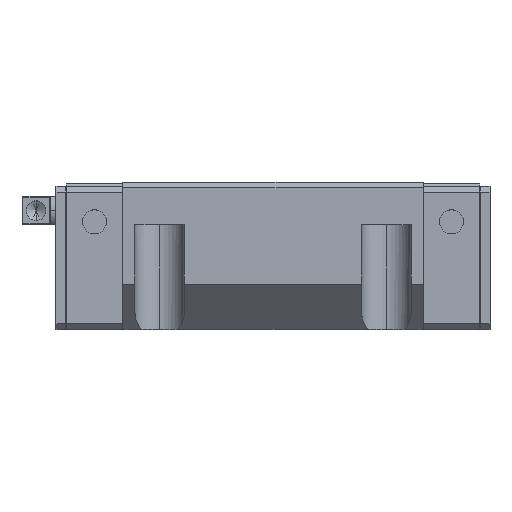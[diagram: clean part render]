
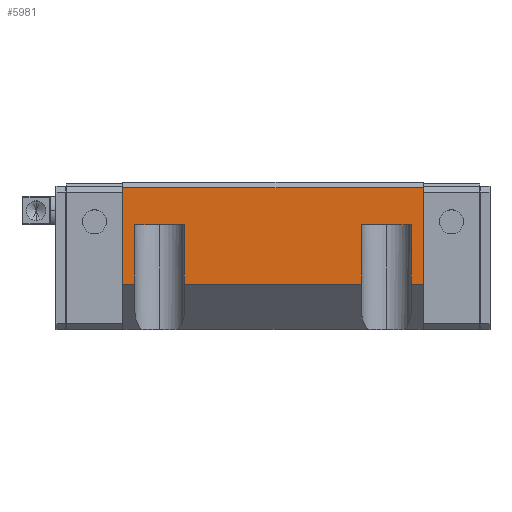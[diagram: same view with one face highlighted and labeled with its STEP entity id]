
A CAD part, top view. The second image highlights one B-rep face of the part: STEP entity #5981.
In plain terms, the highlighted planar face has unit normal (0, 0, 1).
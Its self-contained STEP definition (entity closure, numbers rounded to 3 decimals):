
#60 = EDGE_CURVE ( 'NONE', #6344, #935, #9092, .T. ) ;
#377 = VECTOR ( 'NONE', #4587, 1000. ) ;
#396 = DIRECTION ( 'NONE',  ( 0., -1., 0. ) ) ;
#417 = EDGE_CURVE ( 'NONE', #8476, #6859, #4392, .T. ) ;
#437 = DIRECTION ( 'NONE',  ( 0., 1., 0. ) ) ;
#481 = EDGE_CURVE ( 'NONE', #6074, #8610, #5539, .T. ) ;
#519 = CARTESIAN_POINT ( 'NONE',  ( -53., 20., 60. ) ) ;
#643 = CARTESIAN_POINT ( 'NONE',  ( 48.75, -14., 60. ) ) ;
#852 = ORIENTED_EDGE ( 'NONE', *, *, #481, .T. ) ;
#935 = VERTEX_POINT ( 'NONE', #9121 ) ;
#937 = EDGE_LOOP ( 'NONE', ( #5628, #4161, #5760, #6761, #8206, #2794, #2731, #852, #6980, #3498, #9285, #2928 ) ) ;
#1030 = EDGE_CURVE ( 'NONE', #4673, #8476, #4134, .T. ) ;
#1035 = EDGE_CURVE ( 'NONE', #9078, #1548, #7962, .T. ) ;
#1167 = CARTESIAN_POINT ( 'NONE',  ( 48.75, -14., 60. ) ) ;
#1396 = LINE ( 'NONE', #5685, #7808 ) ;
#1405 = VECTOR ( 'NONE', #6653, 1000. ) ;
#1546 = CARTESIAN_POINT ( 'NONE',  ( 53., 20., 60. ) ) ;
#1548 = VERTEX_POINT ( 'NONE', #1546 ) ;
#1604 = VECTOR ( 'NONE', #7113, 1000. ) ;
#1636 = FACE_OUTER_BOUND ( 'NONE', #937, .T. ) ;
#1793 = EDGE_CURVE ( 'NONE', #4673, #8386, #1396, .T. ) ;
#1824 = CARTESIAN_POINT ( 'NONE',  ( -48.75, -14., 60. ) ) ;
#1924 = LINE ( 'NONE', #9043, #377 ) ;
#2179 = VECTOR ( 'NONE', #396, 1000. ) ;
#2222 = DIRECTION ( 'NONE',  ( 0., 0., 1. ) ) ;
#2664 = LINE ( 'NONE', #4116, #1604 ) ;
#2668 = CARTESIAN_POINT ( 'NONE',  ( -53., -14., 60. ) ) ;
#2731 = ORIENTED_EDGE ( 'NONE', *, *, #9303, .T. ) ;
#2794 = ORIENTED_EDGE ( 'NONE', *, *, #3399, .T. ) ;
#2844 = VECTOR ( 'NONE', #7082, 1000. ) ;
#2886 = CARTESIAN_POINT ( 'NONE',  ( -48.75, 7., 60. ) ) ;
#2928 = ORIENTED_EDGE ( 'NONE', *, *, #417, .T. ) ;
#2976 = CARTESIAN_POINT ( 'NONE',  ( 48.75, -14., 60. ) ) ;
#3053 = CARTESIAN_POINT ( 'NONE',  ( -53., 20., 60. ) ) ;
#3156 = EDGE_CURVE ( 'NONE', #8386, #8610, #2664, .T. ) ;
#3239 = CARTESIAN_POINT ( 'NONE',  ( 53., 20., 60. ) ) ;
#3399 = EDGE_CURVE ( 'NONE', #9078, #8037, #1924, .T. ) ;
#3498 = ORIENTED_EDGE ( 'NONE', *, *, #1793, .F. ) ;
#3569 = CARTESIAN_POINT ( 'NONE',  ( 31.25, -14., 60. ) ) ;
#3586 = DIRECTION ( 'NONE',  ( 1., 0., 0. ) ) ;
#3664 = CARTESIAN_POINT ( 'NONE',  ( 48.75, 7., 60. ) ) ;
#3852 = CARTESIAN_POINT ( 'NONE',  ( -53., 20., 60. ) ) ;
#4116 = CARTESIAN_POINT ( 'NONE',  ( -31.25, 7., 60. ) ) ;
#4134 = LINE ( 'NONE', #6401, #7305 ) ;
#4161 = ORIENTED_EDGE ( 'NONE', *, *, #60, .F. ) ;
#4355 = DIRECTION ( 'NONE',  ( 1., 0., 0. ) ) ;
#4392 = LINE ( 'NONE', #8110, #9015 ) ;
#4470 = VECTOR ( 'NONE', #3586, 1000. ) ;
#4587 = DIRECTION ( 'NONE',  ( 0., -1., 0. ) ) ;
#4673 = VERTEX_POINT ( 'NONE', #9427 ) ;
#4958 = CARTESIAN_POINT ( 'NONE',  ( -31.25, 7., 60. ) ) ;
#4973 = LINE ( 'NONE', #643, #4470 ) ;
#5314 = EDGE_CURVE ( 'NONE', #1548, #5526, #8566, .T. ) ;
#5398 = EDGE_CURVE ( 'NONE', #6344, #5526, #4973, .T. ) ;
#5526 = VERTEX_POINT ( 'NONE', #8263 ) ;
#5539 = LINE ( 'NONE', #9230, #8064 ) ;
#5575 = DIRECTION ( 'NONE',  ( 1., 0., 0. ) ) ;
#5608 = LINE ( 'NONE', #8569, #7948 ) ;
#5628 = ORIENTED_EDGE ( 'NONE', *, *, #5991, .F. ) ;
#5685 = CARTESIAN_POINT ( 'NONE',  ( -31.25, -14., 60. ) ) ;
#5760 = ORIENTED_EDGE ( 'NONE', *, *, #5398, .T. ) ;
#5981 = ADVANCED_FACE ( 'NONE', ( #1636 ), #8982, .T. ) ;
#5991 = EDGE_CURVE ( 'NONE', #935, #6859, #7337, .T. ) ;
#6074 = VERTEX_POINT ( 'NONE', #1824 ) ;
#6114 = DIRECTION ( 'NONE',  ( 0., 1., 0. ) ) ;
#6344 = VERTEX_POINT ( 'NONE', #2976 ) ;
#6401 = CARTESIAN_POINT ( 'NONE',  ( -31.25, -14., 60. ) ) ;
#6653 = DIRECTION ( 'NONE',  ( -1., 0., 0. ) ) ;
#6761 = ORIENTED_EDGE ( 'NONE', *, *, #5314, .F. ) ;
#6859 = VERTEX_POINT ( 'NONE', #6897 ) ;
#6897 = CARTESIAN_POINT ( 'NONE',  ( 31.25, 7., 60. ) ) ;
#6980 = ORIENTED_EDGE ( 'NONE', *, *, #3156, .F. ) ;
#7082 = DIRECTION ( 'NONE',  ( 1., 0., 0. ) ) ;
#7113 = DIRECTION ( 'NONE',  ( -1., 0., 0. ) ) ;
#7289 = DIRECTION ( 'NONE',  ( 0., 1., 0. ) ) ;
#7305 = VECTOR ( 'NONE', #5575, 1000. ) ;
#7337 = LINE ( 'NONE', #3664, #1405 ) ;
#7434 = DIRECTION ( 'NONE',  ( 0., 1., 0. ) ) ;
#7769 = VECTOR ( 'NONE', #437, 1000. ) ;
#7808 = VECTOR ( 'NONE', #7289, 1000. ) ;
#7948 = VECTOR ( 'NONE', #4355, 1000. ) ;
#7962 = LINE ( 'NONE', #519, #2844 ) ;
#8037 = VERTEX_POINT ( 'NONE', #2668 ) ;
#8064 = VECTOR ( 'NONE', #6114, 1000. ) ;
#8110 = CARTESIAN_POINT ( 'NONE',  ( 31.25, -14., 60. ) ) ;
#8206 = ORIENTED_EDGE ( 'NONE', *, *, #1035, .F. ) ;
#8263 = CARTESIAN_POINT ( 'NONE',  ( 53., -14., 60. ) ) ;
#8386 = VERTEX_POINT ( 'NONE', #4958 ) ;
#8476 = VERTEX_POINT ( 'NONE', #3569 ) ;
#8566 = LINE ( 'NONE', #3239, #2179 ) ;
#8569 = CARTESIAN_POINT ( 'NONE',  ( -53., -14., 60. ) ) ;
#8610 = VERTEX_POINT ( 'NONE', #2886 ) ;
#8659 = AXIS2_PLACEMENT_3D ( 'NONE', #3852, #2222, #8794 ) ;
#8794 = DIRECTION ( 'NONE',  ( 0., -1., 0. ) ) ;
#8982 = PLANE ( 'NONE',  #8659 ) ;
#9015 = VECTOR ( 'NONE', #7434, 1000. ) ;
#9043 = CARTESIAN_POINT ( 'NONE',  ( -53., 20., 60. ) ) ;
#9078 = VERTEX_POINT ( 'NONE', #3053 ) ;
#9092 = LINE ( 'NONE', #1167, #7769 ) ;
#9121 = CARTESIAN_POINT ( 'NONE',  ( 48.75, 7., 60. ) ) ;
#9230 = CARTESIAN_POINT ( 'NONE',  ( -48.75, -14., 60. ) ) ;
#9285 = ORIENTED_EDGE ( 'NONE', *, *, #1030, .T. ) ;
#9303 = EDGE_CURVE ( 'NONE', #8037, #6074, #5608, .T. ) ;
#9427 = CARTESIAN_POINT ( 'NONE',  ( -31.25, -14., 60. ) ) ;
